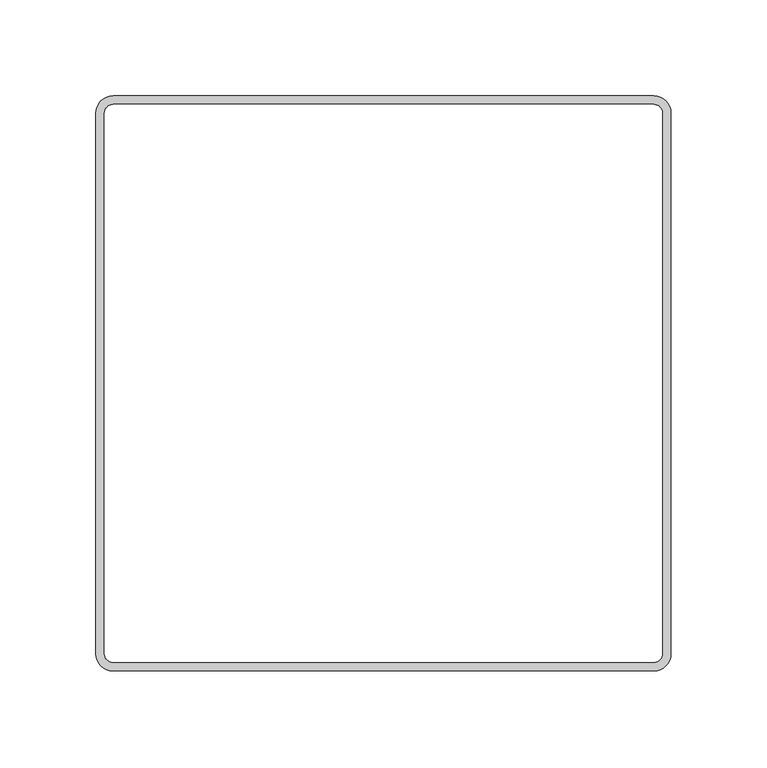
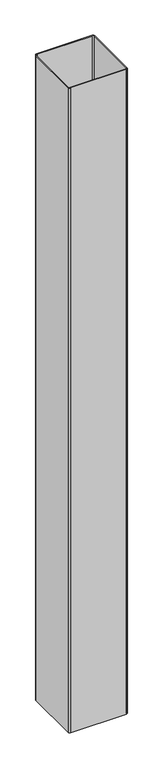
"""IFC4 building model written with IfcOpenShell, lengths in millimetres: column geometry, S柱 Box : ■鉄骨柱-角形鋼300*300*4.5（被覆）."""

from ifc_helpers import new_model, si_unit, point, frame, frame_2d, origin, place, context, project, spatial, polyline, circle_curve, trimmed, segment, composite_curve, outline, extrude, source, transform, mapped, element, save


def column_aeb8c624(model_context):
    return source(origin(), model_context, "Body", "SweptSolid", [
        extrude(outline(composite_curve([segment(trimmed(circle_curve(frame_2d((141.0, 141.0)), 9.0), [point((141.0, 150.0))], [point((150.0, 141.0))], False, "CARTESIAN"), True, "CONTINUOUS"), segment(polyline([(150.0, 141.0), (150.0, -141.0)]), True, "CONTINUOUS"), segment(trimmed(circle_curve(frame_2d((141.0, -141.0)), 9.0), [point((150.0, -141.0))], [point((141.0, -150.0))], False, "CARTESIAN"), True, "CONTINUOUS"), segment(polyline([(141.0, -150.0), (-141.0, -150.0)]), True, "CONTINUOUS"), segment(trimmed(circle_curve(frame_2d((-141.0, -141.0)), 9.0), [point((-141.0, -150.0))], [point((-150.0, -141.0))], False, "CARTESIAN"), True, "CONTINUOUS"), segment(polyline([(-150.0, -141.0), (-150.0, 141.0)]), True, "CONTINUOUS"), segment(trimmed(circle_curve(frame_2d((-141.0, 141.0)), 9.0), [point((-150.0, 141.0))], [point((-141.0, 150.0))], False, "CARTESIAN"), True, "CONTINUOUS"), segment(polyline([(-141.0, 150.0), (141.0, 150.0)]), True, "CONTINUOUS")], self_intersect=False), holes=[composite_curve([segment(polyline([(141.0, 145.5), (-141.0, 145.5)]), True, "CONTINUOUS"), segment(trimmed(circle_curve(frame_2d((-141.0, 141.0)), 4.5), [point((-141.0, 145.5))], [point((-145.5, 141.0))], True, "CARTESIAN"), True, "CONTINUOUS"), segment(polyline([(-145.5, 141.0), (-145.5, -141.0)]), True, "CONTINUOUS"), segment(trimmed(circle_curve(frame_2d((-141.0, -141.0)), 4.5), [point((-145.5, -141.0))], [point((-141.0, -145.5))], True, "CARTESIAN"), True, "CONTINUOUS"), segment(polyline([(-141.0, -145.5), (141.0, -145.5)]), True, "CONTINUOUS"), segment(trimmed(circle_curve(frame_2d((141.0, -141.0)), 4.5), [point((141.0, -145.5))], [point((145.5, -141.0))], True, "CARTESIAN"), True, "CONTINUOUS"), segment(polyline([(145.5, -141.0), (145.5, 141.0)]), True, "CONTINUOUS"), segment(trimmed(circle_curve(frame_2d((141.0, 141.0)), 4.5), [point((145.5, 141.0))], [point((141.0, 145.5))], True, "CARTESIAN"), True, "CONTINUOUS")], self_intersect=False)]), frame((0.0, 0.0, 9850.0), z_axis=(0.0, 0.0, 1.0), x_axis=(1.0, 0.0, 0.0)), (0.0, 0.0, 1.0), 3450.0),
    ])


if __name__ == "__main__":
    model = new_model("IFC4")
    model_context = context("Model", 3, world=origin())
    ifc_project = project(units=[si_unit("LENGTHUNIT", "METRE", prefix="MILLI")], contexts=[model_context])
    site = spatial("IfcSite", under=ifc_project)
    building = spatial("IfcBuilding", under=site)
    placement = place(None, origin())
    column_shape = column_aeb8c624(model_context)
    element("IfcColumn", 1, ObjectType="S柱 Box : ■鉄骨柱-角形鋼300*300*4.5（被覆）", at=placement, inside=building, context=model_context, shape_type="MappedRepresentation", body=[
        mapped(column_shape, transform((0.0, 0.0, 0.0), x_axis=(1.0, 0.0, 0.0), y_axis=(0.0, 1.0, 0.0), z_axis=(0.0, 0.0, 1.0))),
    ])
    save(model, "model.ifc")
